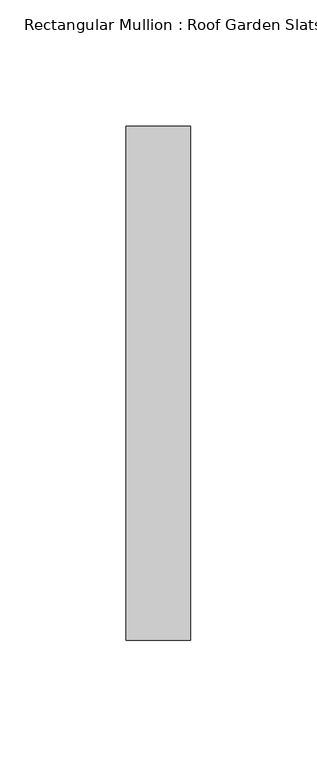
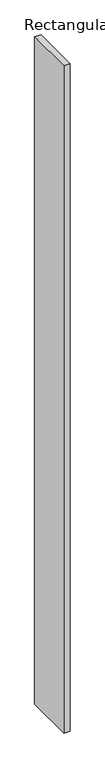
"""IFC4 building model written with IfcOpenShell, lengths in millimetres: member geometry, Rectangular Mullion : Roof Garden Slats."""

from ifc_helpers import new_model, si_unit, frame, origin, place, context, project, spatial, polyline, outline, extrude, source, transform, mapped, element, save


def rectangular_mullion_roof_garden_slats_e88244e4(model_context):
    return source(origin(), model_context, "Body", "SweptSolid", [
        extrude(outline(polyline([(12.7, 139.7), (12.7, -63.5), (-12.7, -63.5), (-12.7, 139.7), (12.7, 139.7)])), frame((0.0, 0.0, -2843.6306606), z_axis=(0.0, 0.0, 1.0), x_axis=(1.0, 0.0, 0.0)), (0.0, 0.0, 1.0), 2843.6306606),
    ])


if __name__ == "__main__":
    model = new_model("IFC4")
    model_context = context("Model", 3, world=origin())
    ifc_project = project(units=[si_unit("LENGTHUNIT", "METRE", prefix="MILLI")], contexts=[model_context])
    site = spatial("IfcSite", under=ifc_project)
    building = spatial("IfcBuilding", under=site)
    placement = place(None, origin())
    rectangular_mullion_roof_garden_slats_shape = rectangular_mullion_roof_garden_slats_e88244e4(model_context)
    element("IfcMember", 1, ObjectType="Rectangular Mullion : Roof Garden Slats", at=placement, inside=building, context=model_context, shape_type="MappedRepresentation", body=[
        mapped(rectangular_mullion_roof_garden_slats_shape, transform((0.0, 0.0, 0.0), x_axis=(1.0, 0.0, 0.0), y_axis=(0.0, 1.0, 0.0), z_axis=(0.0, 0.0, 1.0))),
    ])
    save(model, "model.ifc")
